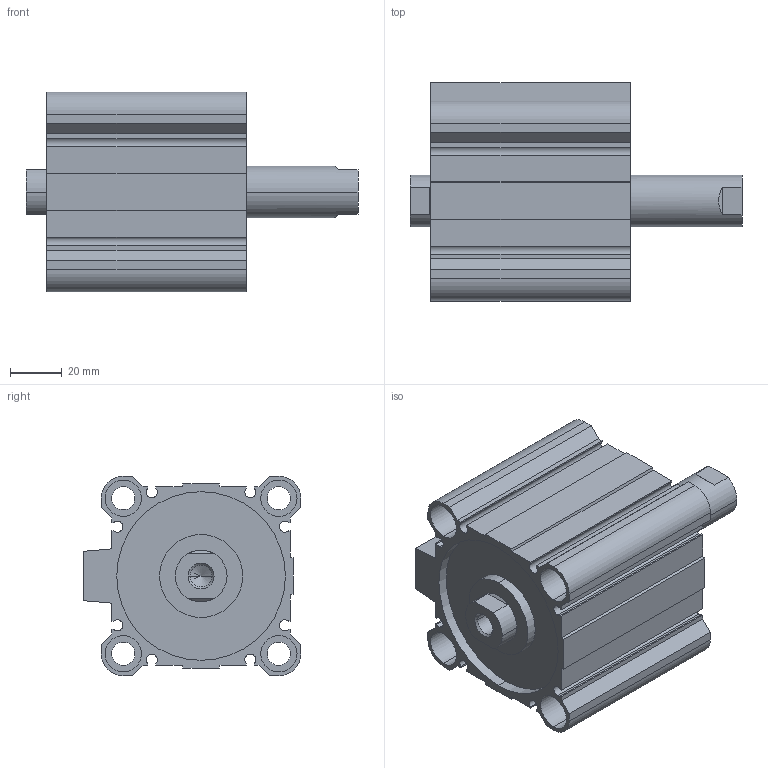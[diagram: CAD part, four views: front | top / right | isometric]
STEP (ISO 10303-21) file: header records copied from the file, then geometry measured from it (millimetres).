
FILE_DESCRIPTION (( 'STEP AP203' ), '1' );
FILE_NAME ('CCMB63-35F-P.STEP', '2020-08-05T11:47:11', ( '' ), ( '' ), 'SwSTEP 2.0', 'SolidWorks 2019', '' );
FILE_SCHEMA (( 'CONFIG_CONTROL_DESIGN' ));
Length unit declared in the file: millimetre
Products named in the file (1): CCMB63-35F-P
Bounding box: 128 x 84 x 77 mm (x, y, z)
Volume: 268168.6 mm3; surface area: 89223.7 mm2
Topology: 2 solids, 2 shells, 176 faces, 450 edges, 294 vertices
Faces by surface type: plane 90, cylinder 74, cone 12
Entity records: 5425 total; most frequent: DIRECTION 956, CARTESIAN_POINT 929, ORIENTED_EDGE 892, EDGE_CURVE 446, AXIS2_PLACEMENT_3D 337, VERTEX_POINT 294, VECTOR 282, LINE 282
